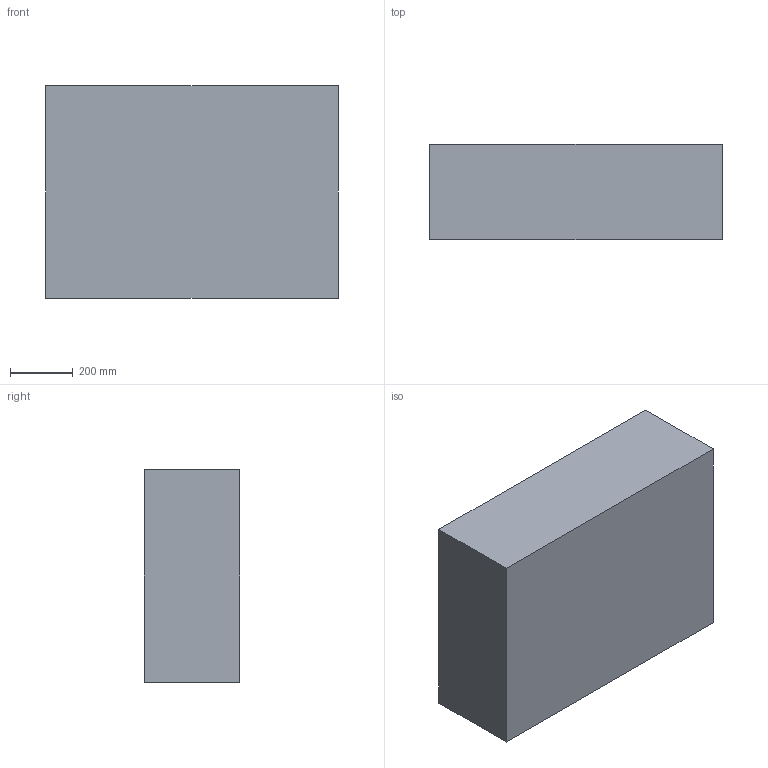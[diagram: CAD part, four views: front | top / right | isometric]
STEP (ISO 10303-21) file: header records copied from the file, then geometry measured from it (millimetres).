
FILE_DESCRIPTION (( 'STEP AP214' ), '1' );
FILE_NAME ('1730E - 932 TOP PID 4-10-2025.STEP', '2025-05-22T05:43:15', ( '' ), ( '' ), 'SwSTEP 2.0', 'SolidWorks 2021', '' );
FILE_SCHEMA (( 'AUTOMOTIVE_DESIGN' ));
Length unit declared in the file: inch
Products named in the file (1): 1730E - 932 TOP PID 4-10-2025
Bounding box: 930.85 x 303.53 x 676.85 mm (x, y, z)
Surface area: 3017227.3 mm2 (no closed solid volume)
Topology: 0 solids, 3 shells, 356 faces, 866 edges, 506 vertices
Faces by surface type: bspline 130, cylinder 120, plane 54, torus 32, cone 16, sphere 4
Entity records: 14618 total; most frequent: CARTESIAN_POINT 7491, ORIENTED_EDGE 1700, DIRECTION 1250, EDGE_CURVE 854, VERTEX_POINT 506, AXIS2_PLACEMENT_3D 497, EDGE_LOOP 360, FACE_OUTER_BOUND 356
